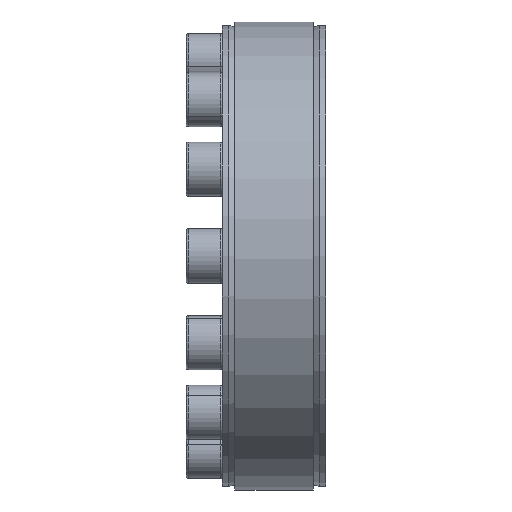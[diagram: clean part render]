
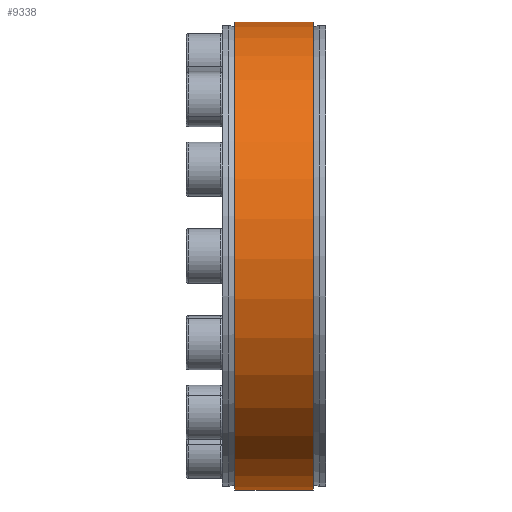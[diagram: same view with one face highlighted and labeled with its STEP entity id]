
A CAD part, front view. The second image highlights one B-rep face of the part: STEP entity #9338.
In plain terms, the highlighted cylindrical face has radius 77.5 mm (diameter 155 mm), a partial arc.
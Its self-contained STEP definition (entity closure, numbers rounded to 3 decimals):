
#146 = DIRECTION ( 'NONE',  ( 0., 0., 1. ) ) ;
#258 = ORIENTED_EDGE ( 'NONE', *, *, #6351, .F. ) ;
#484 = DIRECTION ( 'NONE',  ( -1., 0., 0. ) ) ;
#607 = DIRECTION ( 'NONE',  ( 1., 0., 0. ) ) ;
#657 = ORIENTED_EDGE ( 'NONE', *, *, #8355, .T. ) ;
#1153 = CARTESIAN_POINT ( 'NONE',  ( 13., 0., 0. ) ) ;
#1828 = CARTESIAN_POINT ( 'NONE',  ( -17.103, 0., 0. ) ) ;
#1847 = FACE_OUTER_BOUND ( 'NONE', #6505, .T. ) ;
#2034 = DIRECTION ( 'NONE',  ( 0., 0., 1. ) ) ;
#2585 = LINE ( 'NONE', #4271, #9193 ) ;
#2694 = CARTESIAN_POINT ( 'NONE',  ( 13., 2., 77.474 ) ) ;
#3357 = VECTOR ( 'NONE', #607, 1000. ) ;
#3443 = VERTEX_POINT ( 'NONE', #9481 ) ;
#3581 = CARTESIAN_POINT ( 'NONE',  ( -13., 2., 77.474 ) ) ;
#4271 = CARTESIAN_POINT ( 'NONE',  ( -17.103, 2., 77.474 ) ) ;
#4694 = VERTEX_POINT ( 'NONE', #7592 ) ;
#4957 = CIRCLE ( 'NONE', #7879, 77.5 ) ;
#5614 = CARTESIAN_POINT ( 'NONE',  ( -13., 0., 0. ) ) ;
#6351 = EDGE_CURVE ( 'NONE', #9336, #6607, #2585, .T. ) ;
#6485 = DIRECTION ( 'NONE',  ( 0., 0., 1. ) ) ;
#6505 = EDGE_LOOP ( 'NONE', ( #258, #657, #10854, #7876 ) ) ;
#6607 = VERTEX_POINT ( 'NONE', #3581 ) ;
#6608 = CARTESIAN_POINT ( 'NONE',  ( -17.103, -2., 77.474 ) ) ;
#7193 = DIRECTION ( 'NONE',  ( -1., 0., 0. ) ) ;
#7592 = CARTESIAN_POINT ( 'NONE',  ( -13., -2., 77.474 ) ) ;
#7876 = ORIENTED_EDGE ( 'NONE', *, *, #9002, .F. ) ;
#7879 = AXIS2_PLACEMENT_3D ( 'NONE', #1153, #7193, #2034 ) ;
#7962 = AXIS2_PLACEMENT_3D ( 'NONE', #1828, #10442, #146 ) ;
#8355 = EDGE_CURVE ( 'NONE', #9336, #3443, #4957, .T. ) ;
#8556 = EDGE_CURVE ( 'NONE', #4694, #3443, #10218, .T. ) ;
#9002 = EDGE_CURVE ( 'NONE', #6607, #4694, #10207, .T. ) ;
#9193 = VECTOR ( 'NONE', #10291, 1000. ) ;
#9336 = VERTEX_POINT ( 'NONE', #2694 ) ;
#9338 = ADVANCED_FACE ( 'NONE', ( #1847 ), #10722, .T. ) ;
#9481 = CARTESIAN_POINT ( 'NONE',  ( 13., -2., 77.474 ) ) ;
#10120 = AXIS2_PLACEMENT_3D ( 'NONE', #5614, #484, #6485 ) ;
#10207 = CIRCLE ( 'NONE', #10120, 77.5 ) ;
#10218 = LINE ( 'NONE', #6608, #3357 ) ;
#10291 = DIRECTION ( 'NONE',  ( -1., 0., 0. ) ) ;
#10442 = DIRECTION ( 'NONE',  ( -1., 0., 0. ) ) ;
#10722 = CYLINDRICAL_SURFACE ( 'NONE', #7962, 77.5 ) ;
#10854 = ORIENTED_EDGE ( 'NONE', *, *, #8556, .F. ) ;
